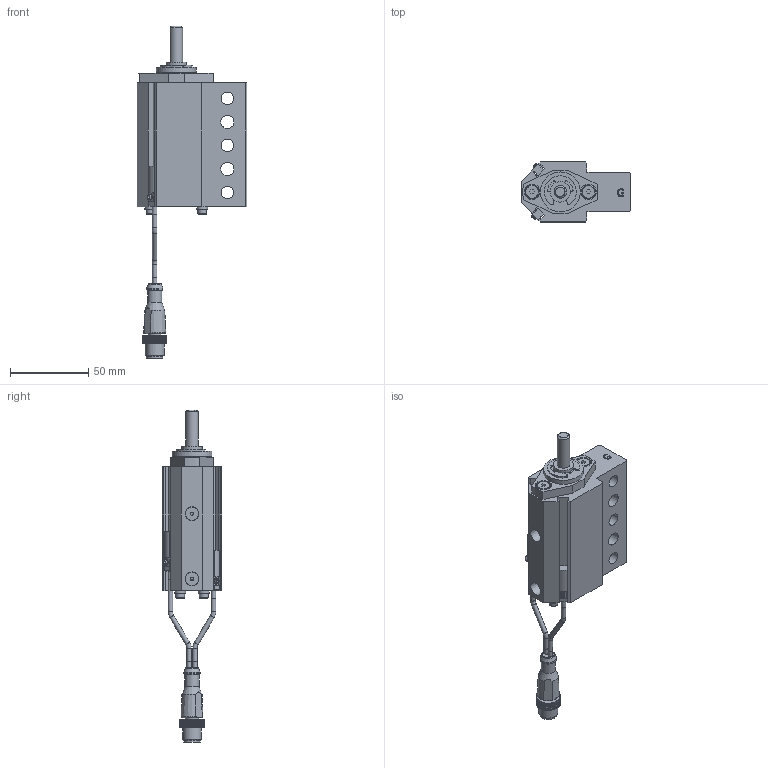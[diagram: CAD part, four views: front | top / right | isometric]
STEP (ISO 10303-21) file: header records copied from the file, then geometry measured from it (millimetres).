
FILE_DESCRIPTION(/* description */ ('NAAMS FLOATING MICRO PIN'),/* implementation_level */ '2;1');
FILE_NAME(/* name */ 'C:\Vault Workspace\CAD\Welker\Shot Pin\NMP\NMP080022EGNL3.stp',/* time_stamp */ '2021-01-28T11:53:29-05:00',/* author */ ('WELKER'),/* organization */ (''),/* preprocessor_version */ 'ST-DEVELOPER v18.1',/* originating_system */ 'Autodesk Inventor 2020',/* authorisation */ '');
FILE_SCHEMA (('AUTOMOTIVE_DESIGN { 1 0 10303 214 3 1 1 }'));
Length unit declared in the file: millimetre
Products named in the file (16): NMPL01; NMP L3 SWITCH; L3 Connector; L3 Sensor 1; L3 Sensor 2; L3 Sensor cable; L3 Sensor cable 2; M3X0.5-8 SHCS; NL3; NMPE06; NMPE03; NMPE04-DIA-LENGTH; 985432A218; NMPE01G-PORT; RMPE02; M5X5 SHOULDER
Assembly tree (22 placements, depth 3):
  NMPL01
    NMP L3 SWITCH
      L3 Connector
      L3 Sensor 1
      L3 Sensor 2
      L3 Sensor cable
      L3 Sensor cable 2
    M3X0.5-8 SHCS  x4
    NL3  x4
    NMPE06
    NMPE03
    NMPE04-DIA-LENGTH
    985432A218
    NMPE01G-PORT
    RMPE02
    M5X5 SHOULDER  x2
Bounding box: 70 x 38.1 x 211.52 mm (x, y, z)
Volume: 131975.3 mm3; surface area: 49584.7 mm2
Topology: 21 solids, 21 shells, 760 faces, 2087 edges, 1399 vertices
Faces by surface type: plane 547, cylinder 149, cone 35, bspline 16, torus 11, sphere 2
Full cylindrical faces by diameter (mm): 2 x2, 2.459 x4, 2.9 x10, 3 x5, 3.242 x2, 3.4 x4, 4 x2, 5 x6, 5.5 x4, 6.647 x2, 7 x4, 8 x6, 8.3 x2, 8.5 x2, 9 x3, 10 x3, 10.4 x1, 10.5 x1, 12 x1, 13 x3, 16 x2, 19.05 x3, 21 x1, 22.5 x1, 23.673 x1, 24 x1, 25.4 x1, 25.5 x1, 26.5 x1, 28.677 x1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
Entity records: 23755 total; most frequent: CARTESIAN_POINT 4682, ORIENTED_EDGE 3864, DIRECTION 3765, EDGE_CURVE 1932, LINE 1391, VECTOR 1391, VERTEX_POINT 1304, AXIS2_PLACEMENT_3D 1187
